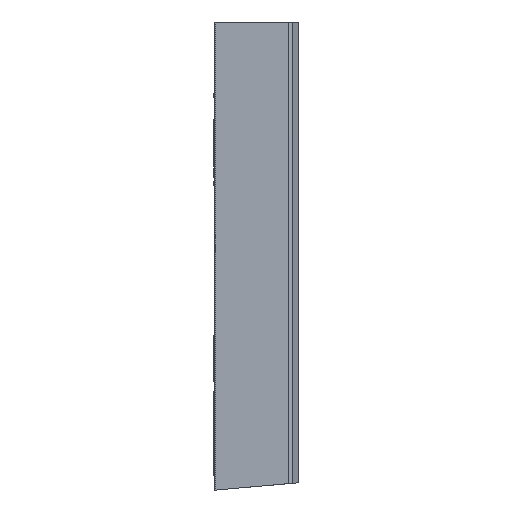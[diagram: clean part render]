
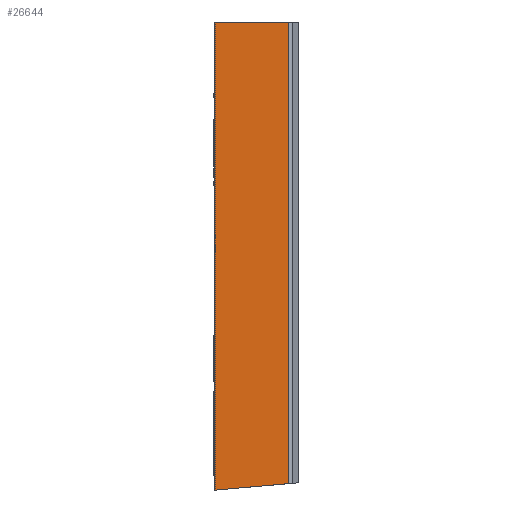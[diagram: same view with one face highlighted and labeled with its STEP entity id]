
A CAD part, left-side view. The second image highlights one B-rep face of the part: STEP entity #26644.
In plain terms, the highlighted planar face has unit normal (-1, 0, 0).
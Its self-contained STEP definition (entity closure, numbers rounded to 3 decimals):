
#699 = LINE ( 'NONE', #6115, #28683 ) ;
#896 = DIRECTION ( 'NONE',  ( 0., 0., 1. ) ) ;
#1375 = DIRECTION ( 'NONE',  ( 0., -1., 0. ) ) ;
#1722 = VERTEX_POINT ( 'NONE', #8281 ) ;
#1892 = CARTESIAN_POINT ( 'NONE',  ( -242.5, 31.62, -1526.492 ) ) ;
#2971 = EDGE_CURVE ( 'NONE', #27636, #9392, #28635, .T. ) ;
#3375 = VERTEX_POINT ( 'NONE', #21192 ) ;
#4041 = PLANE ( 'NONE',  #22590 ) ;
#5272 = CARTESIAN_POINT ( 'NONE',  ( -242.5, 274., 0. ) ) ;
#5587 = VECTOR ( 'NONE', #1375, 1000. ) ;
#6115 = CARTESIAN_POINT ( 'NONE',  ( -242.5, 274., -1547.5 ) ) ;
#7361 = EDGE_CURVE ( 'NONE', #1722, #9392, #26378, .T. ) ;
#7790 = ORIENTED_EDGE ( 'NONE', *, *, #8866, .T. ) ;
#8281 = CARTESIAN_POINT ( 'NONE',  ( -242.5, 274., -1547.5 ) ) ;
#8513 = LINE ( 'NONE', #23505, #14893 ) ;
#8866 = EDGE_CURVE ( 'NONE', #27636, #3375, #8513, .T. ) ;
#9392 = VERTEX_POINT ( 'NONE', #18388 ) ;
#9612 = DIRECTION ( 'NONE',  ( -1., 0., 0. ) ) ;
#13747 = EDGE_CURVE ( 'NONE', #1722, #30373, #699, .T. ) ;
#13872 = ORIENTED_EDGE ( 'NONE', *, *, #30841, .F. ) ;
#14893 = VECTOR ( 'NONE', #896, 1000. ) ;
#16853 = FACE_OUTER_BOUND ( 'NONE', #28861, .T. ) ;
#18388 = CARTESIAN_POINT ( 'NONE',  ( -242.5, 271.741, -1547.5 ) ) ;
#18452 = CARTESIAN_POINT ( 'NONE',  ( -242.5, 274., 0. ) ) ;
#21079 = ORIENTED_EDGE ( 'NONE', *, *, #13747, .F. ) ;
#21192 = CARTESIAN_POINT ( 'NONE',  ( -242.5, 31.62, 0. ) ) ;
#21777 = DIRECTION ( 'NONE',  ( 0., 0., 1. ) ) ;
#22590 = AXIS2_PLACEMENT_3D ( 'NONE', #22755, #9612, #27629 ) ;
#22755 = CARTESIAN_POINT ( 'NONE',  ( -242.5, 274., -1547.5 ) ) ;
#23505 = CARTESIAN_POINT ( 'NONE',  ( -242.5, 31.62, -1547.5 ) ) ;
#23931 = DIRECTION ( 'NONE',  ( 0., 0.996, -0.087 ) ) ;
#26223 = LINE ( 'NONE', #18452, #5587 ) ;
#26378 = LINE ( 'NONE', #26702, #29873 ) ;
#26398 = VECTOR ( 'NONE', #23931, 1000. ) ;
#26644 = ADVANCED_FACE ( 'NONE', ( #16853 ), #4041, .T. ) ;
#26702 = CARTESIAN_POINT ( 'NONE',  ( -242.5, 274., -1547.5 ) ) ;
#27629 = DIRECTION ( 'NONE',  ( 0., -1., 0. ) ) ;
#27636 = VERTEX_POINT ( 'NONE', #1892 ) ;
#28635 = LINE ( 'NONE', #31178, #26398 ) ;
#28683 = VECTOR ( 'NONE', #21777, 1000. ) ;
#28720 = DIRECTION ( 'NONE',  ( 0., -1., 0. ) ) ;
#28861 = EDGE_LOOP ( 'NONE', ( #30648, #7790, #13872, #21079, #30590 ) ) ;
#29873 = VECTOR ( 'NONE', #28720, 1000. ) ;
#30373 = VERTEX_POINT ( 'NONE', #5272 ) ;
#30590 = ORIENTED_EDGE ( 'NONE', *, *, #7361, .T. ) ;
#30648 = ORIENTED_EDGE ( 'NONE', *, *, #2971, .F. ) ;
#30841 = EDGE_CURVE ( 'NONE', #30373, #3375, #26223, .T. ) ;
#31178 = CARTESIAN_POINT ( 'NONE',  ( -242.5, 0., -1523.726 ) ) ;
